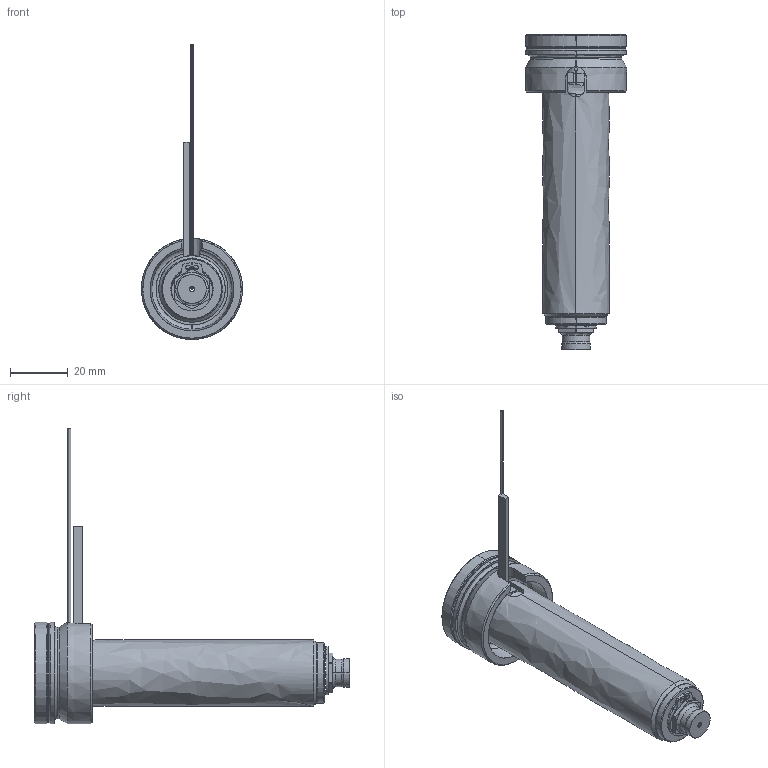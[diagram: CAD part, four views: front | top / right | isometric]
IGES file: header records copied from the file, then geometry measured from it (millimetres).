
Start section: SolidWorks IGES file using analytic representation for surfaces
Global section: file name: C:\Documents and Settings\ws-20\Desktop\TEM\UGEP3152-S-A-0 [Øf-0.70 P-0 ØC-6.0].IGS; native system: SolidWorks 2012; preprocessor: SolidWorks 2012; author: ws-20; date: 120404.080710; units: millimetre
Bounding box: 35 x 109 x 102.1 mm (x, y, z)
Surface area: 18985.3 mm2 (no closed solid volume)
Topology: 0 solids, 0 shells, 125 faces, 1952 edges, 1952 vertices
Faces by surface type: revolution 75, bspline 50
